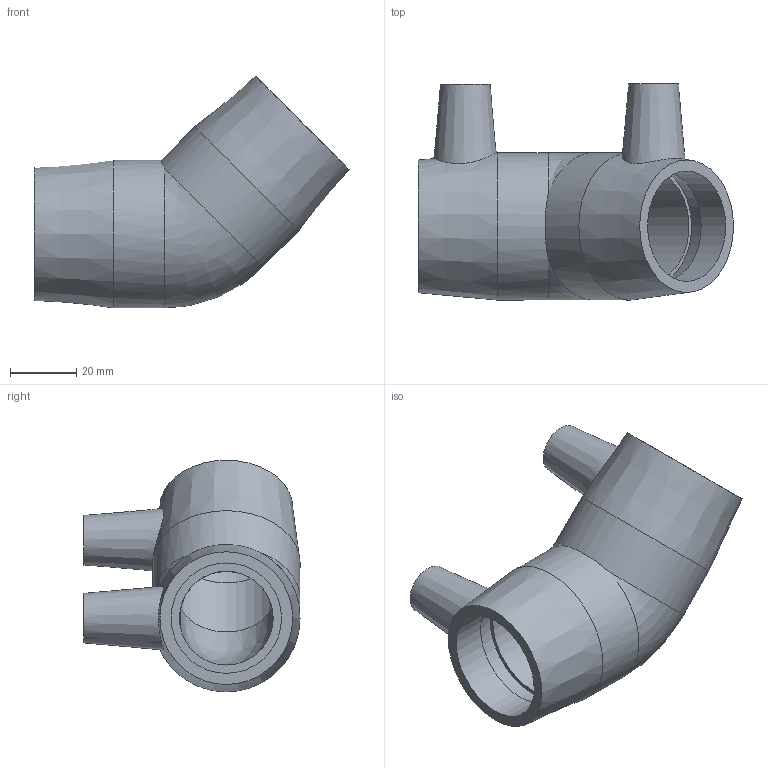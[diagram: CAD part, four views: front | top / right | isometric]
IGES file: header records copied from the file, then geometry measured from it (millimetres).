
Global section: file name: 5906B003010.ipt; native system: Autodesk Inventor 2019; preprocessor: unknown; author: KIM; date: 20210830.101005; units: inch
Bounding box: 95 x 65.15 x 69.86 mm (x, y, z)
Volume: 68279.4 mm3; surface area: 27298.7 mm2
Topology: 1 solids, 1 shells, 30 faces, 68 edges, 46 vertices
Faces by surface type: plane 12, revolution 9, cylinder 4, cone 4, bspline 1
Full cylindrical faces by diameter (mm): 4 x2, 44.45 x2
